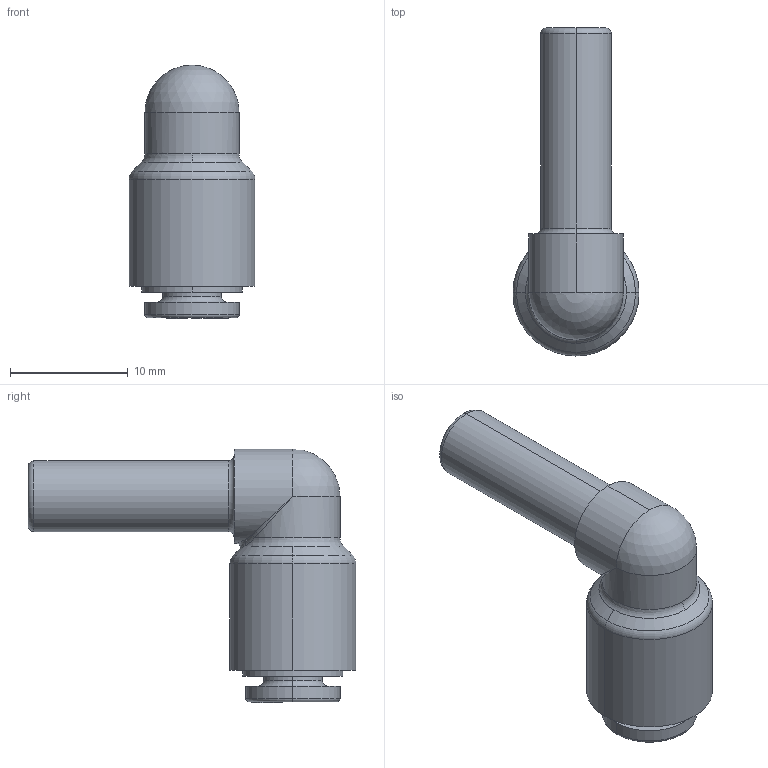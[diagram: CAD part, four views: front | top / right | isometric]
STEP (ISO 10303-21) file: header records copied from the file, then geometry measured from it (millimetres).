
FILE_DESCRIPTION (( 'STEP AP214' ), '1' );
FILE_NAME ('5414000002A.STEP', '2024-09-20T08:06:57', ( '' ), ( '' ), 'SwSTEP 2.0', 'SolidWorks 2020', '' );
FILE_SCHEMA (( 'AUTOMOTIVE_DESIGN' ));
Length unit declared in the file: millimetre
Products named in the file (1): 5414000002A
Bounding box: 10.7 x 27.85 x 21.55 mm (x, y, z)
Volume: 1457.6 mm3; surface area: 1646.8 mm2
Topology: 1 solids, 1 shells, 251 faces, 671 edges, 434 vertices
Faces by surface type: plane 141, bspline 67, cylinder 21, torus 12, cone 8, sphere 2
Entity records: 11536 total; most frequent: CARTESIAN_POINT 2922, ORIENTED_EDGE 1332, DIRECTION 972, EDGE_CURVE 666, LINE 456, VECTOR 456, VERTEX_POINT 434, EDGE_LOOP 270
